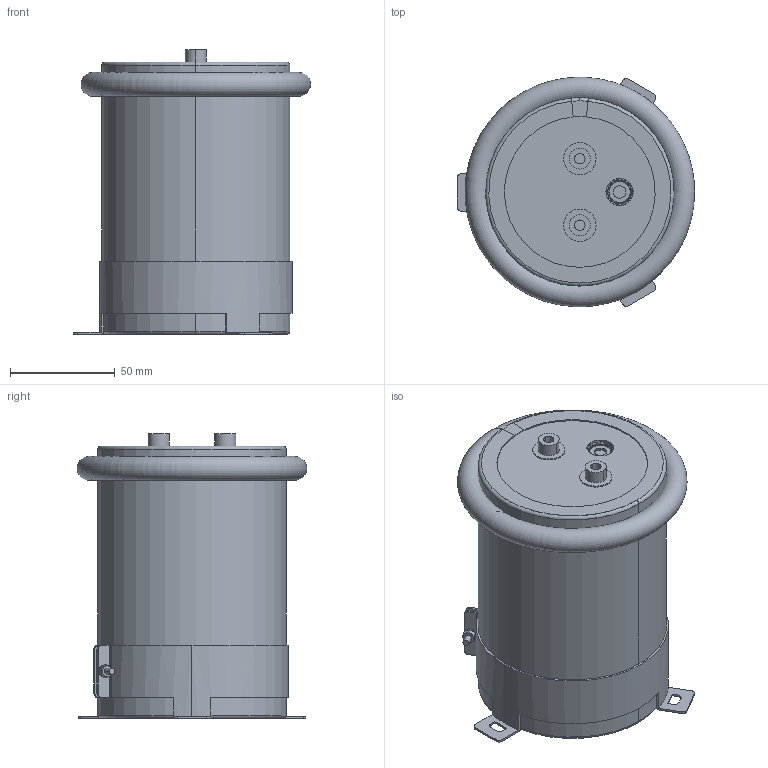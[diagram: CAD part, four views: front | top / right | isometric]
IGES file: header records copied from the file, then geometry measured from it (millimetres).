
Start section: 3D InterOp IGES (v. 2019 1.0.2), Spatial Corp. Copyright (c) 1999-2017.
Global section: file name: 90x130_Screw.igs; native system: Spatial Corp.; preprocessor: 3D InterOp ACIS/IGES; author: Noname; organization: Noname; date: 20220314.180143; units: millimetre
Bounding box: 113.35 x 109.7 x 136 mm (x, y, z)
Volume: 1171711.9 mm3; surface area: 290454.5 mm2
Topology: 9 solids, 9 shells, 352 faces, 953 edges, 591 vertices
Faces by surface type: plane 112, cylinder 110, torus 90, cone 38, sphere 2
